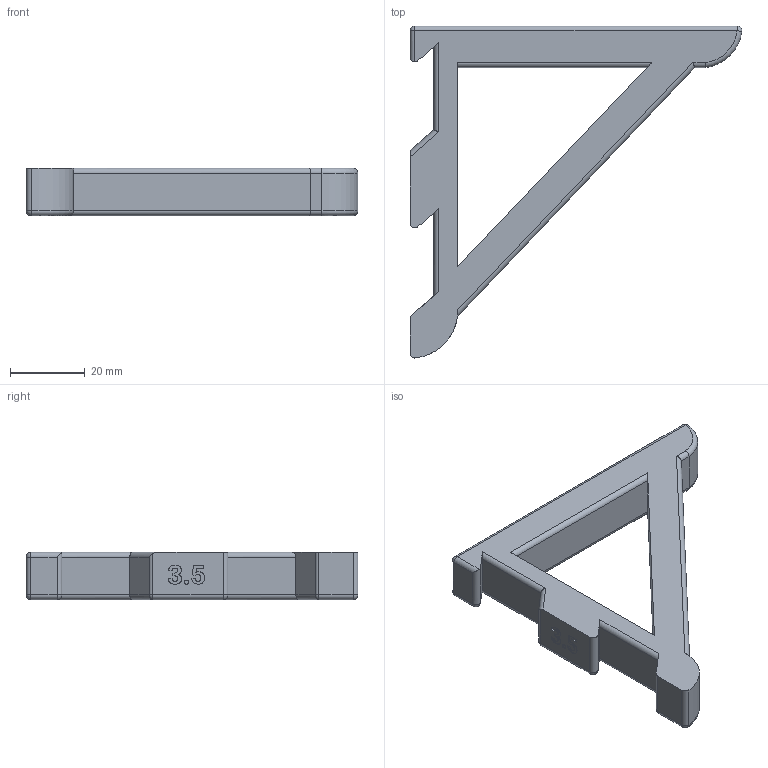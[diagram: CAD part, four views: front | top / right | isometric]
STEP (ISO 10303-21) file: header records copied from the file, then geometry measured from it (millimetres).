
FILE_DESCRIPTION(/* description */ ('STEP AP242','CAx-IF Rec.Pracs.---Representation and Presentation of Product Manufacturing Information (PMI)---4.0---2014-10-13','CAx-IF Rec.Pracs.---3D Tessellated Geometry---0.4---2014-09-14','2;1'),/* implementation_level */ '2;1');
FILE_NAME(/* name */ '677d79d9b77be45bfcd6c380',/* time_stamp */ '2025-01-07T19:00:42Z',/* author */ (''),/* organization */ (''),/* preprocessor_version */ 'ST-DEVELOPER v20',/* originating_system */ 'ONSHAPE BY PTC INC, 1.191',/* authorisation */ ' ');
FILE_SCHEMA (('AP242_MANAGED_MODEL_BASED_3D_ENGINEERING_MIM_LF { 1 0 10303 442 1 1 4 }'));
Length unit declared in the file: metre
Products named in the file (1): Shelf Bracket-3.5
Bounding box: 88.82 x 88.83 x 12.7 mm (x, y, z)
Volume: 30074.9 mm3; surface area: 10850.4 mm2
Topology: 1 solids, 1 shells, 125 faces, 329 edges, 200 vertices
Faces by surface type: cylinder 43, bspline 37, plane 33, sphere 9, torus 3
Entity records: 3915 total; most frequent: CARTESIAN_POINT 1070, ORIENTED_EDGE 640, DIRECTION 498, EDGE_CURVE 320, VERTEX_POINT 200, AXIS2_PLACEMENT_3D 167, LINE 164, VECTOR 164
